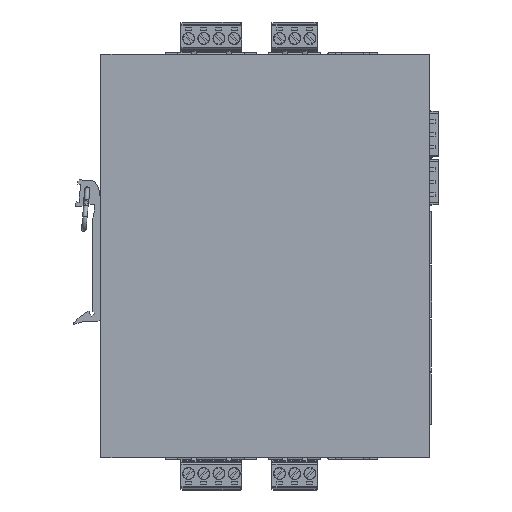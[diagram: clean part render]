
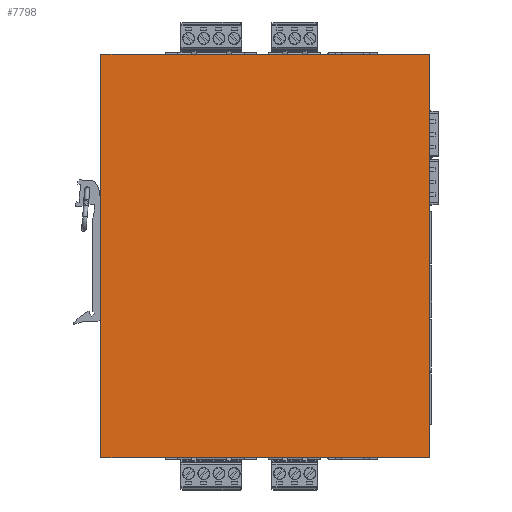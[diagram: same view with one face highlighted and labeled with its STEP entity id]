
A CAD part, left-side view. The second image highlights one B-rep face of the part: STEP entity #7798.
In plain terms, the highlighted planar face has unit normal (-1, 0, 0).
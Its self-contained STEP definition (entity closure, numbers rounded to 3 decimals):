
#2873=CARTESIAN_POINT('',(-0.,110.,135.));
#2874=VERTEX_POINT('',#2873);
#2875=CARTESIAN_POINT('',(-0.,110.,0.));
#2876=VERTEX_POINT('',#2875);
#2877=CARTESIAN_POINT('',(-0.,110.,135.));
#2878=DIRECTION('',(-0.,-0.,-1.));
#2879=VECTOR('',#2878,135.);
#2880=LINE('',#2877,#2879);
#2881=EDGE_CURVE('',#2874,#2876,#2880,.T.);
#3576=CARTESIAN_POINT('',(0.,0.,0.));
#3577=VERTEX_POINT('',#3576);
#3594=CARTESIAN_POINT('',(0.,0.,135.));
#3595=VERTEX_POINT('',#3594);
#3602=CARTESIAN_POINT('',(0.,0.,135.));
#3603=DIRECTION('',(-0.,-0.,-1.));
#3604=VECTOR('',#3603,135.);
#3605=LINE('',#3602,#3604);
#3606=EDGE_CURVE('',#3595,#3577,#3605,.T.);
#7395=CARTESIAN_POINT('',(-0.,0.,135.));
#7396=DIRECTION('',(-0.,1.,-0.));
#7397=VECTOR('',#7396,110.);
#7398=LINE('',#7395,#7397);
#7399=EDGE_CURVE('',#3595,#2874,#7398,.T.);
#7661=CARTESIAN_POINT('',(-0.,0.,-0.));
#7662=DIRECTION('',(-0.,1.,-0.));
#7663=VECTOR('',#7662,110.);
#7664=LINE('',#7661,#7663);
#7665=EDGE_CURVE('',#3577,#2876,#7664,.T.);
#7787=CARTESIAN_POINT('',(0.,-0.002,135.));
#7788=DIRECTION('',(1.,0.,-0.));
#7789=DIRECTION('',(-0.,-0.,-1.));
#7790=AXIS2_PLACEMENT_3D('',#7787,#7788,#7789);
#7791=PLANE('',#7790);
#7792=ORIENTED_EDGE('',*,*,#7399,.T.);
#7793=ORIENTED_EDGE('',*,*,#2881,.T.);
#7794=ORIENTED_EDGE('',*,*,#7665,.F.);
#7795=ORIENTED_EDGE('',*,*,#3606,.F.);
#7796=EDGE_LOOP('',(#7792,#7793,#7794,#7795));
#7797=FACE_BOUND('',#7796,.T.);
#7798=ADVANCED_FACE('',(#7797),#7791,.F.);
